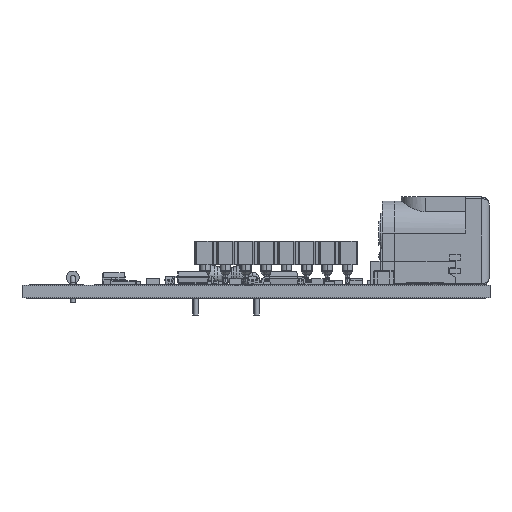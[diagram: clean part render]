
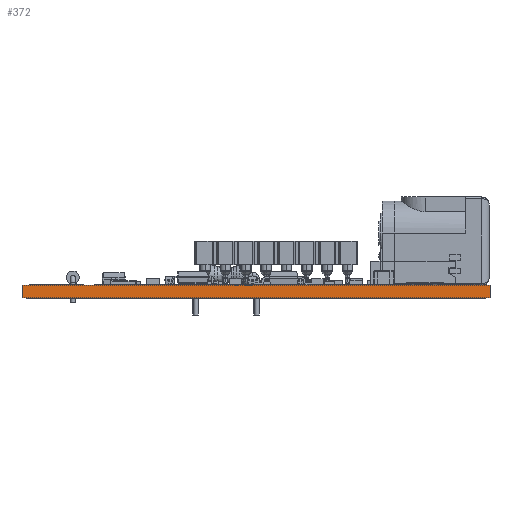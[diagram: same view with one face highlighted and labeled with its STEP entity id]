
A CAD part, front view. The second image highlights one B-rep face of the part: STEP entity #372.
In plain terms, the highlighted planar face has unit normal (0, -1, 0).
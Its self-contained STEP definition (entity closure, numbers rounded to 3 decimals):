
#314 = EDGE_CURVE('',#315,#317,#319,.T.);
#315 = VERTEX_POINT('',#316);
#316 = CARTESIAN_POINT('',(83.82,-119.38,0.));
#317 = VERTEX_POINT('',#318);
#318 = CARTESIAN_POINT('',(83.82,-119.38,-1.6));
#319 = LINE('',#320,#321);
#320 = CARTESIAN_POINT('',(83.82,-119.38,0.));
#321 = VECTOR('',#322,1.);
#322 = DIRECTION('',(0.,0.,-1.));
#347 = VERTEX_POINT('',#348);
#348 = CARTESIAN_POINT('',(25.4,-119.38,-1.6));
#354 = EDGE_CURVE('',#355,#347,#357,.T.);
#355 = VERTEX_POINT('',#356);
#356 = CARTESIAN_POINT('',(25.4,-119.38,0.));
#357 = LINE('',#358,#359);
#358 = CARTESIAN_POINT('',(25.4,-119.38,0.));
#359 = VECTOR('',#360,1.);
#360 = DIRECTION('',(0.,0.,-1.));
#372 = ADVANCED_FACE('',(#373),#389,.T.);
#373 = FACE_BOUND('',#374,.T.);
#374 = EDGE_LOOP('',(#375,#376,#382,#383));
#375 = ORIENTED_EDGE('',*,*,#354,.T.);
#376 = ORIENTED_EDGE('',*,*,#377,.T.);
#377 = EDGE_CURVE('',#347,#317,#378,.T.);
#378 = LINE('',#379,#380);
#379 = CARTESIAN_POINT('',(25.4,-119.38,-1.6));
#380 = VECTOR('',#381,1.);
#381 = DIRECTION('',(1.,0.,0.));
#382 = ORIENTED_EDGE('',*,*,#314,.F.);
#383 = ORIENTED_EDGE('',*,*,#384,.F.);
#384 = EDGE_CURVE('',#355,#315,#385,.T.);
#385 = LINE('',#386,#387);
#386 = CARTESIAN_POINT('',(25.4,-119.38,0.));
#387 = VECTOR('',#388,1.);
#388 = DIRECTION('',(1.,0.,0.));
#389 = PLANE('',#390);
#390 = AXIS2_PLACEMENT_3D('',#391,#392,#393);
#391 = CARTESIAN_POINT('',(25.4,-119.38,0.));
#392 = DIRECTION('',(0.,-1.,0.));
#393 = DIRECTION('',(1.,0.,0.));
